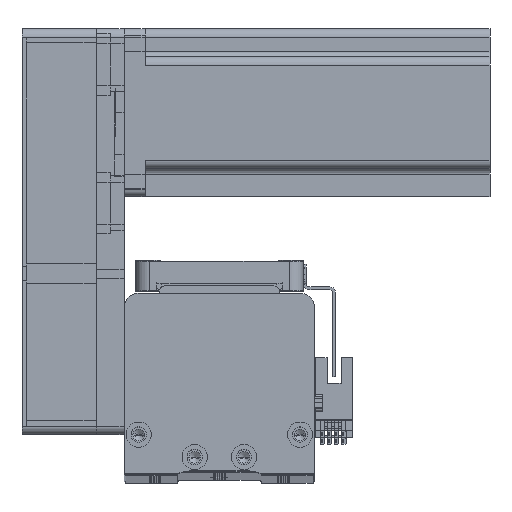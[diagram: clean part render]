
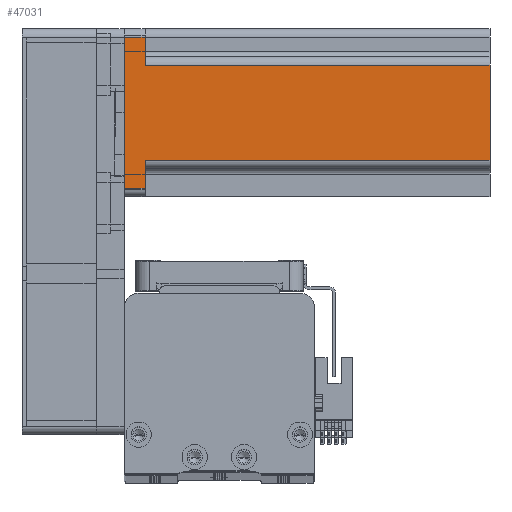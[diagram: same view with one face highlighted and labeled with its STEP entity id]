
A CAD part, top view. The second image highlights one B-rep face of the part: STEP entity #47031.
In plain terms, the highlighted planar face has unit normal (0, 0, 1) as drawn and (0, 1, 0) by its records, which use the part's own axes.
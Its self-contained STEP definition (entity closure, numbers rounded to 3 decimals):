
#1032 = EDGE_CURVE ( 'NONE', #34298, #49682, #39148, .T. ) ;
#1151 = ORIENTED_EDGE ( 'NONE', *, *, #28219, .F. ) ;
#1994 = EDGE_LOOP ( 'NONE', ( #32247, #21014, #1151, #38664, #26228, #26640, #34476, #31070 ) ) ;
#2422 = VERTEX_POINT ( 'NONE', #15059 ) ;
#3318 = FACE_OUTER_BOUND ( 'NONE', #1994, .T. ) ;
#3634 = DIRECTION ( 'NONE',  ( -1., 0., 0. ) ) ;
#4163 = DIRECTION ( 'NONE',  ( 0., 0., 1. ) ) ;
#4444 = DIRECTION ( 'NONE',  ( 0., 0., -1. ) ) ;
#5169 = CARTESIAN_POINT ( 'NONE',  ( -17., 30., 7.5 ) ) ;
#5413 = VERTEX_POINT ( 'NONE', #52944 ) ;
#5539 = EDGE_CURVE ( 'NONE', #52747, #5413, #11721, .T. ) ;
#9789 = CARTESIAN_POINT ( 'NONE',  ( -20., 30., 7.5 ) ) ;
#11178 = DIRECTION ( 'NONE',  ( 0., -1., 0. ) ) ;
#11656 = CARTESIAN_POINT ( 'NONE',  ( -17., 30., 130.7 ) ) ;
#11721 = LINE ( 'NONE', #25136, #33824 ) ;
#11922 = CARTESIAN_POINT ( 'NONE',  ( 30., 30., 0. ) ) ;
#12526 = CARTESIAN_POINT ( 'NONE',  ( 17., 30., 130.7 ) ) ;
#13136 = EDGE_CURVE ( 'NONE', #24690, #2422, #35689, .T. ) ;
#14150 = EDGE_CURVE ( 'NONE', #51686, #24526, #50166, .T. ) ;
#15059 = CARTESIAN_POINT ( 'NONE',  ( 27., 30., 0. ) ) ;
#16120 = VECTOR ( 'NONE', #3634, 1000. ) ;
#16560 = CARTESIAN_POINT ( 'NONE',  ( 30., 30., 130.7 ) ) ;
#16743 = DIRECTION ( 'NONE',  ( 0., 0., -1. ) ) ;
#17025 = VECTOR ( 'NONE', #16743, 1000. ) ;
#18213 = CARTESIAN_POINT ( 'NONE',  ( -27., 30., 0. ) ) ;
#19779 = LINE ( 'NONE', #11922, #29534 ) ;
#21014 = ORIENTED_EDGE ( 'NONE', *, *, #14150, .T. ) ;
#23527 = CARTESIAN_POINT ( 'NONE',  ( 17., 30., 7.5 ) ) ;
#23574 = EDGE_CURVE ( 'NONE', #24690, #49682, #38273, .T. ) ;
#23832 = EDGE_CURVE ( 'NONE', #5413, #51686, #23992, .T. ) ;
#23992 = LINE ( 'NONE', #9789, #44759 ) ;
#24526 = VERTEX_POINT ( 'NONE', #40265 ) ;
#24659 = VECTOR ( 'NONE', #4444, 1000. ) ;
#24690 = VERTEX_POINT ( 'NONE', #29152 ) ;
#25136 = CARTESIAN_POINT ( 'NONE',  ( -27., 30., 130.7 ) ) ;
#25377 = LINE ( 'NONE', #16560, #35094 ) ;
#26228 = ORIENTED_EDGE ( 'NONE', *, *, #23574, .F. ) ;
#26640 = ORIENTED_EDGE ( 'NONE', *, *, #13136, .T. ) ;
#28219 = EDGE_CURVE ( 'NONE', #34298, #24526, #25377, .T. ) ;
#28260 = DIRECTION ( 'NONE',  ( 0., 0., 1. ) ) ;
#28449 = AXIS2_PLACEMENT_3D ( 'NONE', #36081, #11178, #40307 ) ;
#29152 = CARTESIAN_POINT ( 'NONE',  ( 27., 30., 7.5 ) ) ;
#29438 = CARTESIAN_POINT ( 'NONE',  ( 27., 30., 130.7 ) ) ;
#29534 = VECTOR ( 'NONE', #53369, 1000. ) ;
#30827 = CARTESIAN_POINT ( 'NONE',  ( 17., 30., 130.7 ) ) ;
#31070 = ORIENTED_EDGE ( 'NONE', *, *, #5539, .T. ) ;
#32247 = ORIENTED_EDGE ( 'NONE', *, *, #23832, .T. ) ;
#33824 = VECTOR ( 'NONE', #4163, 1000. ) ;
#34298 = VERTEX_POINT ( 'NONE', #30827 ) ;
#34476 = ORIENTED_EDGE ( 'NONE', *, *, #50378, .T. ) ;
#35094 = VECTOR ( 'NONE', #45653, 1000. ) ;
#35689 = LINE ( 'NONE', #29438, #24659 ) ;
#36081 = CARTESIAN_POINT ( 'NONE',  ( 30., 30., 130.7 ) ) ;
#38273 = LINE ( 'NONE', #53471, #16120 ) ;
#38664 = ORIENTED_EDGE ( 'NONE', *, *, #1032, .T. ) ;
#39148 = LINE ( 'NONE', #12526, #17025 ) ;
#40124 = PLANE ( 'NONE',  #28449 ) ;
#40265 = CARTESIAN_POINT ( 'NONE',  ( -17., 30., 130.7 ) ) ;
#40307 = DIRECTION ( 'NONE',  ( 1., 0., 0. ) ) ;
#44759 = VECTOR ( 'NONE', #47223, 1000. ) ;
#45653 = DIRECTION ( 'NONE',  ( -1., 0., 0. ) ) ;
#47031 = ADVANCED_FACE ( 'NONE', ( #3318 ), #40124, .F. ) ;
#47223 = DIRECTION ( 'NONE',  ( 1., 0., 0. ) ) ;
#49682 = VERTEX_POINT ( 'NONE', #23527 ) ;
#50166 = LINE ( 'NONE', #11656, #51439 ) ;
#50378 = EDGE_CURVE ( 'NONE', #2422, #52747, #19779, .T. ) ;
#51439 = VECTOR ( 'NONE', #28260, 1000. ) ;
#51686 = VERTEX_POINT ( 'NONE', #5169 ) ;
#52747 = VERTEX_POINT ( 'NONE', #18213 ) ;
#52944 = CARTESIAN_POINT ( 'NONE',  ( -27., 30., 7.5 ) ) ;
#53369 = DIRECTION ( 'NONE',  ( -1., 0., 0. ) ) ;
#53471 = CARTESIAN_POINT ( 'NONE',  ( 20., 30., 7.5 ) ) ;
